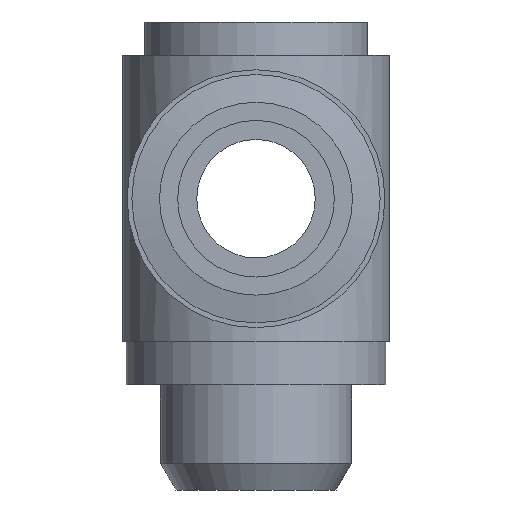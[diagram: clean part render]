
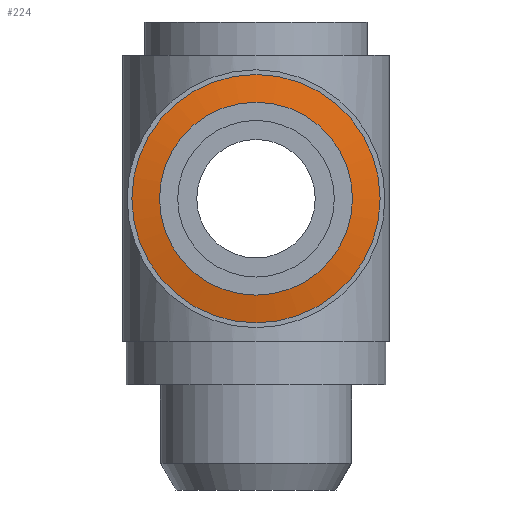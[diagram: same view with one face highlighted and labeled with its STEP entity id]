
A CAD part, front view. The second image highlights one B-rep face of the part: STEP entity #224.
In plain terms, the highlighted conical face has half-angle 80 degrees and reference radius 5.775 mm.
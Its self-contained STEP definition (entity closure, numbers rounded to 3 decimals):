
#190=CARTESIAN_POINT('',(6.5,-24.544,0.0));
#191=VERTEX_POINT('',#190);
#192=CARTESIAN_POINT('',(0.,-24.544,0.0));
#193=DIRECTION('',(0.0,-1.0,0.0));
#194=DIRECTION('',(1.0,0.0,0.0));
#195=AXIS2_PLACEMENT_3D('',#192,#193,#194);
#196=CIRCLE('',#195,6.5);
#197=EDGE_CURVE('',#191,#191,#196,.T.);
#205=CARTESIAN_POINT('',(0.,-24.672,0.0));
#206=DIRECTION('',(0.,1.0,0.0));
#207=DIRECTION('',(1.0,0.0,0.0));
#208=AXIS2_PLACEMENT_3D('',#205,#206,#207);
#209=CONICAL_SURFACE('',#208,5.775,80.);
#210=CARTESIAN_POINT('',(5.05,-24.8,0.0));
#211=VERTEX_POINT('',#210);
#212=CARTESIAN_POINT('',(0.,-24.8,0.0));
#213=DIRECTION('',(0.0,-1.0,0.0));
#214=DIRECTION('',(1.0,0.0,0.0));
#215=AXIS2_PLACEMENT_3D('',#212,#213,#214);
#216=CIRCLE('',#215,5.05);
#217=EDGE_CURVE('',#211,#211,#216,.T.);
#218=ORIENTED_EDGE('',*,*,#217,.F.);
#219=EDGE_LOOP('',(#218));
#220=FACE_OUTER_BOUND('',#219,.T.);
#221=ORIENTED_EDGE('',*,*,#197,.T.);
#222=EDGE_LOOP('',(#221));
#223=FACE_BOUND('',#222,.T.);
#224=ADVANCED_FACE('',(#220,#223),#209,.T.);
